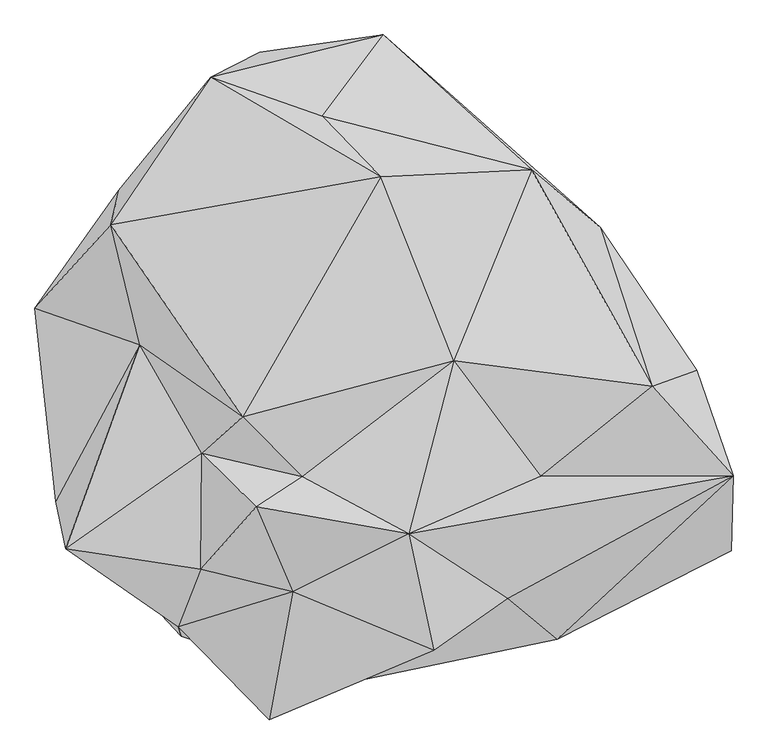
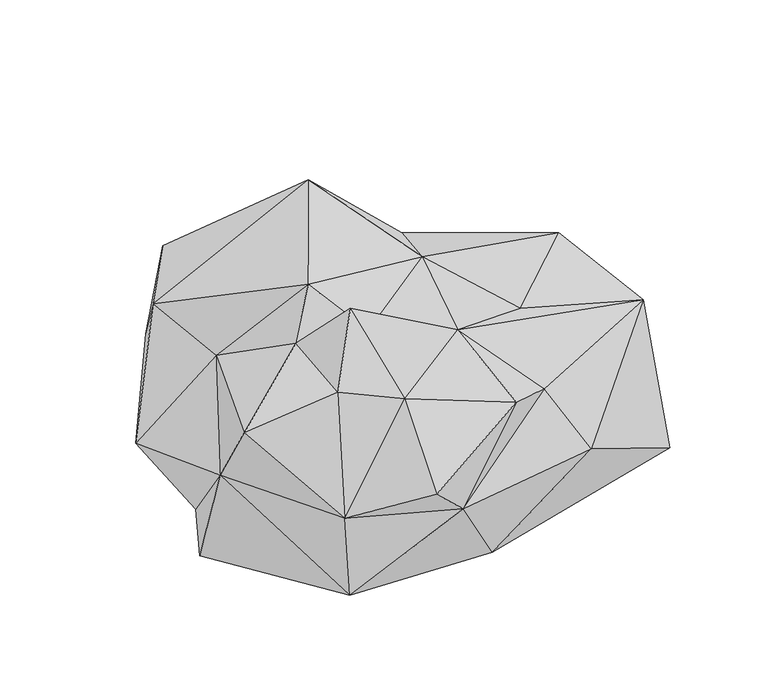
"""IFC4 building model written with IfcOpenShell, lengths in millimetres: geographic element geometry, Enscape AssetDefinition - Bush 012 English Laurel : Enscape AssetDefinition - Bush 012 English Laurel 5."""

import ifcopenshell
import ifcopenshell.guid

model = None  # the IFC model being written
_history = None  # IfcOwnerHistory: only IFC2X3 demands one
_inside = {}  # id of a spatial element -> (the spatial element, [elements in it])
_under = {}  # id of a project, library or spatial element -> (it, [spatial elements below it])
_declared = {}  # id of a project -> (the project, [libraries it declares])
_typed = {}  # id of a type object -> (the type object, [elements of that type])
_made_of = {}  # id of a material, layer set ... -> (it, [elements and type objects made of it])


def new_model(schema):
    """Start an empty IFC model of exactly this schema.

    Asked for "IFC4X3", IfcOpenShell would pick the latest addendum, in which some entities
    have other attributes; the version numbers below select the first issue.
    IFC2X3 requires an IfcOwnerHistory on every rooted entity: one is made here for all.
    """
    global model, _history
    if schema == "IFC4X3":
        model = ifcopenshell.file(schema_version=(4, 3, 0, 0))
    else:
        model = ifcopenshell.file(schema=schema)
    _inside.clear()
    _under.clear()
    _declared.clear()
    _typed.clear()
    _made_of.clear()
    _history = None
    if model.schema == "IFC2X3":
        org = make("IfcOrganization", Name="unknown")
        user = make(
            "IfcPersonAndOrganization",
            ThePerson=make("IfcPerson", FamilyName="unknown"),
            TheOrganization=org,
        )
        app = make(
            "IfcApplication",
            ApplicationDeveloper=org,
            Version="unknown",
            ApplicationFullName="unknown",
            ApplicationIdentifier="unknown",
        )
        _history = make(
            "IfcOwnerHistory",
            OwningUser=user,
            OwningApplication=app,
            ChangeAction="ADDED",
            CreationDate=0,
        )
    return model


def make(cls, **values):
    """One entity of the class cls with the attributes given. An attribute that is None is left unset."""
    return model.create_entity(
        cls, **{name: value for name, value in values.items() if value is not None}
    )


def rooted(cls, **values):
    """An entity with a GlobalId (a new one), such as an element, a storey or a relation."""
    return make(cls, GlobalId=ifcopenshell.guid.new(), OwnerHistory=_history, **values)


def si_unit(unit_type, name, prefix=None):
    """IfcSIUnit, for example si_unit("LENGTHUNIT", "METRE", prefix="MILLI")."""
    return make("IfcSIUnit", UnitType=unit_type, Prefix=prefix, Name=name)


def assignment(units):
    """IfcUnitAssignment: the units of a project."""
    return None if units is None else make("IfcUnitAssignment", Units=units)


def point(xyz):
    """IfcCartesianPoint."""
    return None if xyz is None else make("IfcCartesianPoint", Coordinates=xyz)


def direction(xyz):
    """IfcDirection."""
    return None if xyz is None else make("IfcDirection", DirectionRatios=xyz)


def frame(location, z_axis=None, x_axis=None):
    """IfcAxis2Placement3D, a coordinate frame: its origin and axes. An axis left out is left unset."""
    return make(
        "IfcAxis2Placement3D",
        Location=point(location),
        Axis=direction(z_axis),
        RefDirection=direction(x_axis),
    )


def origin():
    """The frame at (0, 0, 0) with its axes left unset."""
    return frame((0.0, 0.0, 0.0))


def place(relative_to, where):
    """IfcLocalPlacement: puts the frame where relative to a parent placement (None: the world)."""
    return make(
        "IfcLocalPlacement", PlacementRelTo=relative_to, RelativePlacement=where
    )


def context(
    kind, dimensions, precision=None, world=None, true_north=None, identifier=None
):
    """IfcGeometricRepresentationContext, for example the 3D "Model" context."""
    return make(
        "IfcGeometricRepresentationContext",
        ContextIdentifier=identifier,
        ContextType=kind,
        CoordinateSpaceDimension=dimensions,
        Precision=precision,
        WorldCoordinateSystem=world,
        TrueNorth=true_north,
    )


def project(units=None, contexts=None):
    """IfcProject with its units and contexts."""
    return rooted(
        "IfcProject",
        Name="project",
        RepresentationContexts=contexts,
        UnitsInContext=assignment(units),
    )


def spatial(cls, under=None, at=None, **own):
    """A site, building, storey or space (cls), placed at a placement, below another one or the project."""
    s = rooted(cls, ObjectPlacement=at, **own)
    if under is not None:
        _under.setdefault(under.id(), (under, []))[1].append(s)
    return s


def point_list(points):
    """IfcCartesianPointList2D or 3D."""
    cls = (
        "IfcCartesianPointList2D" if len(points[0]) == 2 else "IfcCartesianPointList3D"
    )
    return make(cls, CoordList=points)


def triangles(points, corners, closed=None, point_numbers=None):
    """IfcTriangulatedFaceSet: each triangle names its three corners, points numbered from 1."""
    return make(
        "IfcTriangulatedFaceSet",
        Coordinates=point_list(points),
        Closed=closed,
        CoordIndex=corners,
        PnIndex=point_numbers,
    )


def shape(context_of_items, identifier, shape_type, items):
    """IfcShapeRepresentation: the items that make up one representation, for example the "Body"."""
    return make(
        "IfcShapeRepresentation",
        ContextOfItems=context_of_items,
        RepresentationIdentifier=identifier,
        RepresentationType=shape_type,
        Items=items,
    )


def source(mapping_origin, context_of_items, identifier, shape_type, items):
    """IfcRepresentationMap: a shape defined once, which mapped items show again and again."""
    return make(
        "IfcRepresentationMap",
        MappingOrigin=mapping_origin,
        MappedRepresentation=shape(context_of_items, identifier, shape_type, items),
    )


def transform(
    local_origin,
    x_axis=None,
    y_axis=None,
    z_axis=None,
    scale=None,
    scale2=None,
    scale3=None,
    uniform=True,
):
    """IfcCartesianTransformationOperator3D, or its non-uniform kind. x_axis, y_axis, z_axis: its Axis1, 2, 3."""
    if uniform:
        return make(
            "IfcCartesianTransformationOperator3D",
            Axis1=direction(x_axis),
            Axis2=direction(y_axis),
            LocalOrigin=point(local_origin),
            Scale=scale,
            Axis3=direction(z_axis),
        )
    return make(
        "IfcCartesianTransformationOperator3DnonUniform",
        Axis1=direction(x_axis),
        Axis2=direction(y_axis),
        LocalOrigin=point(local_origin),
        Scale=scale,
        Axis3=direction(z_axis),
        Scale2=scale2,
        Scale3=scale3,
    )


def mapped(mapping_source, mapping_target):
    """IfcMappedItem: shows the shape of a source again, moved by a transform."""
    return make(
        "IfcMappedItem", MappingSource=mapping_source, MappingTarget=mapping_target
    )


def made_of(thing, what):
    """Note that an element or type object is made of a material, layer set ...; save() writes the relation."""
    if what is not None:
        _made_of.setdefault(what.id(), (what, []))[1].append(thing)
    return thing


def element(
    cls,
    number,
    at=None,
    inside=None,
    cuts=None,
    type_object=None,
    material=None,
    context=None,
    identifier="Body",
    shape_type=None,
    held_by="IfcProductDefinitionShape",
    body=None,
    shapes=None,
    **own,
):
    """One element of the class cls, such as IfcWall. Its Tag is "e" and its number.

    at: its placement. inside: the storey or other place that contains it. cuts: it is an
    opening in that element (IfcRelVoidsElement). A single representation is given by context,
    identifier, shape_type and body (its items); several are given by shapes. held_by: the class
    of the entity that holds the representations. save() writes the other relations.
    """
    e = rooted(cls, Tag="e%d" % number, ObjectPlacement=at, **own)
    if body is not None:
        shapes = [shape(context, identifier, shape_type, body)]
    if shapes is not None:
        e.Representation = make(held_by, Representations=shapes)
    if inside is not None:
        _inside.setdefault(inside.id(), (inside, []))[1].append(e)
    if cuts is not None:
        rooted(
            "IfcRelVoidsElement", RelatingBuildingElement=cuts, RelatedOpeningElement=e
        )
    if type_object is not None:
        _typed.setdefault(type_object.id(), (type_object, []))[1].append(e)
    return made_of(e, material)


def aggregate(whole, parts):
    """IfcRelAggregates: a whole, such as a stair, and the parts it consists of."""
    return rooted("IfcRelAggregates", RelatingObject=whole, RelatedObjects=parts)


def save(model, path):
    """Write the relations noted so far, then the file.

    IfcRelAggregates (storeys below a building ...), IfcRelContainedInSpatialStructure (elements
    in a storey), IfcRelDefinesByType, IfcRelAssociatesMaterial and IfcRelDeclares: one each for
    every whole, place, type object, material and project.
    """
    for whole, parts in _under.values():
        aggregate(whole, parts)
    for where, things in _inside.values():
        rooted(
            "IfcRelContainedInSpatialStructure",
            RelatedElements=things,
            RelatingStructure=where,
        )
    for kind, things in _typed.values():
        rooted("IfcRelDefinesByType", RelatedObjects=things, RelatingType=kind)
    for what, things in _made_of.values():
        rooted("IfcRelAssociatesMaterial", RelatedObjects=things, RelatingMaterial=what)
    for by, libraries in _declared.values():
        rooted("IfcRelDeclares", RelatingContext=by, RelatedDefinitions=libraries)
    model.write(path)


def geographic_element_8a64e6b8(model_context):
    return source(origin(), model_context, "Body", "Tessellation", [
        triangles([(-100.9475356, -112.7984837, 485.6789303), (26.4844776, 373.2592298, 550.8756775), (-197.4541358, -16.0207529, 584.3311935), (465.9479399, 33.3694385, 460.2130428), (270.8431701, 384.324034, 316.6426274), (285.3533127, -111.8621855, 408.6514009), (144.163348, 75.1406442, 483.1985584), (-364.4878175, 100.8413647, 381.4725729), (-175.7228315, -161.4570235, 600.0000046), (-264.2527838, -75.1612098, 485.505358), (-265.9269186, -263.387248, 467.9377167), (-484.2348687, -229.4913337, 415.6033021), (-500.5621061, -152.9462239, 261.0216402), (-411.7620395, 295.6640569, 418.3614913), (-301.7633213, -356.2285469, 198.9905428), (-507.870272, -75.8746701, 0.0), (-534.4795489, 159.8044354, 168.5079376), (-235.3754404, 347.1826238, 0.0), (-425.6423696, 83.7623836, 0.0), (-297.4031768, -371.3718086, 0.0), (56.2421521, -384.3808983, 0.0), (232.0219023, -309.7108194, 331.5674068), (-57.2664355, -453.1473041, 198.2598825), (312.5024732, -376.2909488, 183.272952), (597.3569973, -111.328052, 322.7017779), (112.1218444, -394.4592439, 389.2699167), (-116.7564453, -299.5555163, 420.9939614), (-154.8695259, -506.7656882, 303.160111), (71.6450909, -205.5675578, 483.1115725), (522.1135886, -48.9899467, 0.0), (594.6806345, -232.9290236, 0.0), (538.1950562, 59.8386122, 215.3297708), (382.1028397, 291.3325989, 134.3686152), (344.1279774, 183.9835555, 0.0), (-46.7611083, 440.4824884, 0.0), (-170.3762102, 575.4818427, 0.0), (80.3758534, 490.6727025, 59.1681908), (30.0575017, 603.2119452, 260.0877401), (-249.8114778, 534.3901285, 372.8159429), (-69.0313106, 471.1597584, 446.4799421), (-324.0861048, 398.7638866, 137.7527472), (-422.6967281, 204.1898984, 91.4894283), (-398.2756897, 351.6412542, 299.4316685)], [[2, 14, 3], [41, 42, 43], [41, 18, 42], [36, 35, 18], [36, 18, 41], [36, 41, 39], [41, 43, 39], [39, 43, 14], [2, 39, 14], [40, 39, 2], [5, 40, 2], [5, 38, 40], [36, 39, 38], [39, 40, 38], [38, 37, 36], [37, 35, 36], [21, 18, 34], [18, 35, 34], [34, 35, 37], [33, 34, 37], [33, 37, 38], [33, 38, 5], [33, 5, 4], [32, 33, 4], [34, 33, 32], [34, 30, 21], [30, 34, 32], [31, 21, 30], [31, 30, 25], [25, 4, 6], [30, 32, 25], [4, 25, 32], [29, 25, 6], [15, 28, 27], [28, 26, 27], [27, 26, 29], [22, 25, 29], [26, 22, 29], [24, 25, 22], [31, 25, 24], [24, 21, 31], [15, 23, 28], [28, 23, 26], [26, 23, 22], [23, 24, 22], [21, 24, 23], [20, 18, 21], [21, 23, 20], [20, 23, 15], [19, 18, 20], [20, 16, 19], [42, 18, 19], [43, 42, 17], [42, 19, 17], [17, 14, 43], [19, 13, 17], [19, 16, 13], [13, 16, 20], [13, 20, 15], [3, 14, 8], [14, 17, 8], [17, 13, 8], [13, 15, 12], [13, 12, 8], [15, 11, 12], [15, 27, 11], [11, 27, 9], [9, 27, 29], [8, 10, 3], [10, 11, 9], [10, 12, 11], [8, 12, 10], [1, 3, 10], [9, 29, 1], [10, 9, 1], [29, 7, 1], [6, 7, 29], [6, 4, 7], [7, 5, 2], [4, 5, 7], [7, 2, 3], [7, 3, 1]]),
    ])


if __name__ == "__main__":
    model = new_model("IFC4")
    model_context = context("Model", 3, world=origin())
    ifc_project = project(units=[si_unit("LENGTHUNIT", "METRE", prefix="MILLI")], contexts=[model_context])
    site = spatial("IfcSite", under=ifc_project)
    building = spatial("IfcBuilding", under=site)
    placement = place(None, origin())
    geographic_element_shape = geographic_element_8a64e6b8(model_context)
    element("IfcGeographicElement", 1, ObjectType="Enscape AssetDefinition - Bush 012 English Laurel : Enscape AssetDefinition - Bush 012 English Laurel 5", at=placement, inside=building, context=model_context, shape_type="MappedRepresentation", body=[
        mapped(geographic_element_shape, transform((0.0, 0.0, 0.0), x_axis=(1.0, 0.0, 0.0), y_axis=(0.0, 1.0, 0.0), z_axis=(0.0, 0.0, 1.0))),
    ])
    save(model, "model.ifc")
